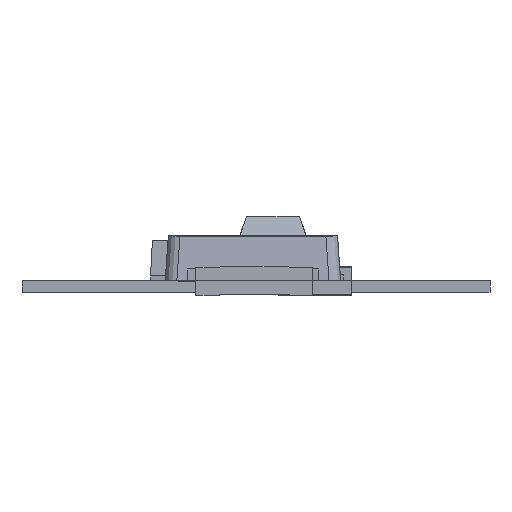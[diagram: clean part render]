
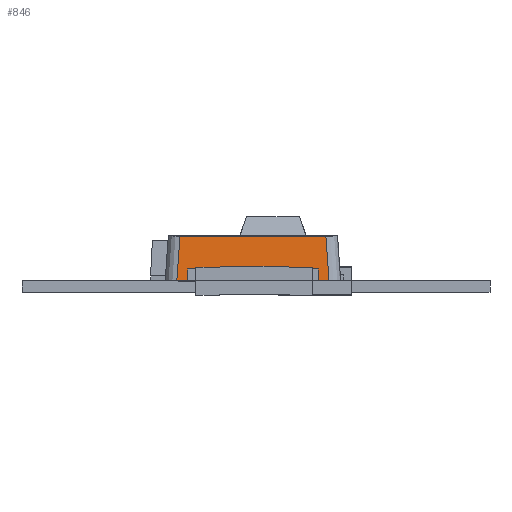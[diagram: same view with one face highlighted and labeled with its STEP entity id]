
A CAD part, left-side view. The second image highlights one B-rep face of the part: STEP entity #846.
In plain terms, the highlighted planar face has unit normal (-0.998, 0, 0.07) as drawn and (0.998, 0.07, 0) by its records, which use the part's own axes.
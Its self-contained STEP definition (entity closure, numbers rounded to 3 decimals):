
#846=ADVANCED_FACE('4:2547',(#1743),#1744,.T.);
#1743=FACE_OUTER_BOUND('',#2723,.T.);
#1744=PLANE('',#2724);
#2723=EDGE_LOOP('',(#4471,#4472,#4473,#4474,#4475,#4476,#4477,#4478,#4479,#4480,#4481,#4482));
#2724=AXIS2_PLACEMENT_3D('',#4483,#4484,#4485);
#4471=ORIENTED_EDGE('',*,*,#6312,.F.);
#4472=ORIENTED_EDGE('',*,*,#6268,.T.);
#4473=ORIENTED_EDGE('',*,*,#6242,.T.);
#4474=ORIENTED_EDGE('',*,*,#6246,.T.);
#4475=ORIENTED_EDGE('',*,*,#6248,.T.);
#4476=ORIENTED_EDGE('',*,*,#6267,.T.);
#4477=ORIENTED_EDGE('',*,*,#6252,.T.);
#4478=ORIENTED_EDGE('',*,*,#6256,.T.);
#4479=ORIENTED_EDGE('',*,*,#6258,.T.);
#4480=ORIENTED_EDGE('',*,*,#6266,.T.);
#4481=ORIENTED_EDGE('',*,*,#6310,.T.);
#4482=ORIENTED_EDGE('',*,*,#6313,.T.);
#4483=CARTESIAN_POINT('',(-0.88,0.0,-7.55));
#4484=DIRECTION('',(0.998,0.07,0.0));
#4485=DIRECTION('',(0.0,0.0,-1.0));
#6242=EDGE_CURVE('4:3162',#7347,#7345,#7348,.T.);
#6246=EDGE_CURVE('4:3171',#7345,#7351,#7353,.T.);
#6248=EDGE_CURVE('4:3174',#7351,#7355,#7356,.T.);
#6252=EDGE_CURVE('4:3183',#7361,#7359,#7362,.T.);
#6256=EDGE_CURVE('4:3192',#7359,#7365,#7367,.T.);
#6258=EDGE_CURVE('4:3195',#7365,#7369,#7370,.T.);
#6266=EDGE_CURVE('4:3216',#7369,#7381,#7383,.T.);
#6267=EDGE_CURVE('4:3219',#7355,#7361,#7384,.T.);
#6268=EDGE_CURVE('4:3222',#7385,#7347,#7386,.T.);
#6310=EDGE_CURVE('4:3315',#7381,#7444,#7446,.T.);
#6312=EDGE_CURVE('4:3318',#7385,#7448,#7449,.T.);
#6313=EDGE_CURVE('4:3321',#7444,#7448,#7450,.T.);
#7345=VERTEX_POINT('NONE',#8909);
#7347=VERTEX_POINT('NONE',#8912);
#7348=LINE('',#8913,#8914);
#7351=VERTEX_POINT('NONE',#8918);
#7353=LINE('',#8921,#8922);
#7355=VERTEX_POINT('NONE',#8924);
#7356=LINE('',#8925,#8926);
#7359=VERTEX_POINT('NONE',#8930);
#7361=VERTEX_POINT('NONE',#8933);
#7362=LINE('',#8934,#8935);
#7365=VERTEX_POINT('NONE',#8939);
#7367=LINE('',#8942,#8943);
#7369=VERTEX_POINT('NONE',#8945);
#7370=LINE('',#8946,#8947);
#7381=VERTEX_POINT('NONE',#8972);
#7383=LINE('',#8984,#8985);
#7384=LINE('',#8986,#8987);
#7385=VERTEX_POINT('NONE',#8988);
#7386=LINE('',#8989,#8990);
#7444=VERTEX_POINT('NONE',#9113);
#7446=LINE('',#9125,#9126);
#7448=VERTEX_POINT('NONE',#9128);
#7449=LINE('',#9129,#9130);
#7450=LINE('',#9131,#9132);
#8909=CARTESIAN_POINT('',(-0.894,0.199,-7.935));
#8912=CARTESIAN_POINT('',(-0.88,0.0,-7.935));
#8913=CARTESIAN_POINT('',(-0.88,0.0,-7.935));
#8914=VECTOR('',#10444,1.);
#8918=CARTESIAN_POINT('',(-0.894,0.199,-8.835));
#8921=CARTESIAN_POINT('',(-0.894,0.199,-7.55));
#8922=VECTOR('',#10447,1.0);
#8924=CARTESIAN_POINT('',(-0.88,0.,-8.835));
#8925=CARTESIAN_POINT('',(-0.88,0.0,-8.835));
#8926=VECTOR('',#10448,1.);
#8930=CARTESIAN_POINT('',(-0.894,0.199,-9.265));
#8933=CARTESIAN_POINT('',(-0.88,0.,-9.265));
#8934=CARTESIAN_POINT('',(-0.88,0.0,-9.265));
#8935=VECTOR('',#10451,1.);
#8939=CARTESIAN_POINT('',(-0.894,0.199,-10.165));
#8942=CARTESIAN_POINT('',(-0.894,0.199,-7.55));
#8943=VECTOR('',#10454,1.0);
#8945=CARTESIAN_POINT('',(-0.88,0.,-10.165));
#8946=CARTESIAN_POINT('',(-0.88,0.0,-10.165));
#8947=VECTOR('',#10455,1.);
#8972=CARTESIAN_POINT('',(-0.88,0.0,-10.35));
#8984=CARTESIAN_POINT('',(-0.88,0.,-7.55));
#8985=VECTOR('',#10460,1.0);
#8986=CARTESIAN_POINT('',(-0.88,0.,-7.55));
#8987=VECTOR('',#10461,1.0);
#8988=CARTESIAN_POINT('',(-0.88,0.,-7.75));
#8989=CARTESIAN_POINT('',(-0.88,0.0,-7.55));
#8990=VECTOR('',#10462,1.0);
#9113=CARTESIAN_POINT('',(-0.934,0.77,-10.297));
#9125=CARTESIAN_POINT('',(-0.88,0.0,-10.35));
#9126=VECTOR('',#10488,1.0);
#9128=CARTESIAN_POINT('',(-0.934,0.77,-7.803));
#9129=CARTESIAN_POINT('',(-0.879,-0.014,-7.749));
#9130=VECTOR('',#10489,1.0);
#9131=CARTESIAN_POINT('',(-0.934,0.77,-10.55));
#9132=VECTOR('',#10490,1.0);
#10444=DIRECTION('',(-0.07,0.998,0.0));
#10447=DIRECTION('',(-0.0,-0.0,-1.0));
#10448=DIRECTION('',(0.07,-0.998,0.0));
#10451=DIRECTION('',(-0.07,0.998,0.0));
#10454=DIRECTION('',(-0.0,-0.0,-1.0));
#10455=DIRECTION('',(0.07,-0.998,0.0));
#10460=DIRECTION('',(-0.0,-0.0,-1.0));
#10461=DIRECTION('',(-0.0,-0.0,-1.0));
#10462=DIRECTION('',(-0.0,-0.0,-1.0));
#10488=DIRECTION('',(-0.07,0.995,0.07));
#10489=DIRECTION('',(-0.07,0.995,-0.07));
#10490=DIRECTION('',(0.0,0.0,1.0));
